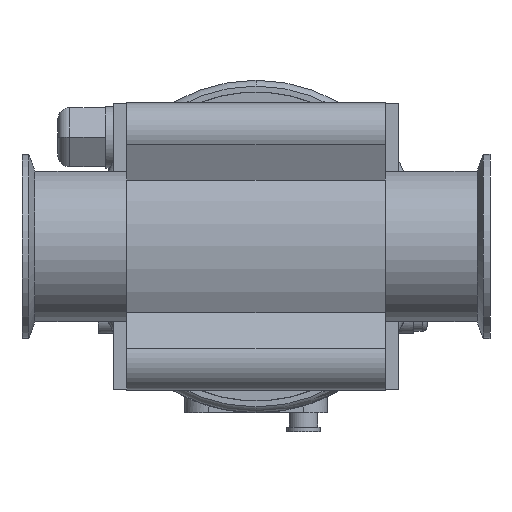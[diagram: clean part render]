
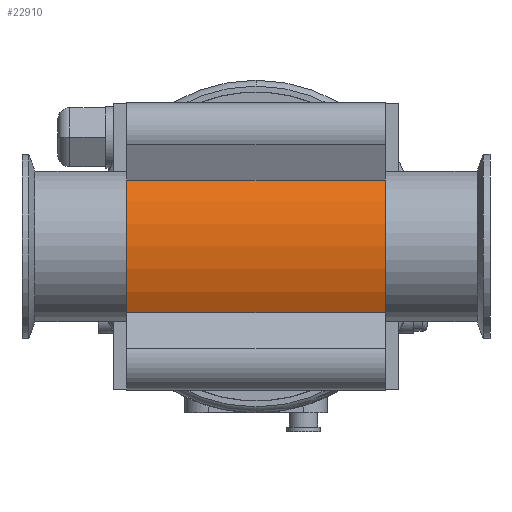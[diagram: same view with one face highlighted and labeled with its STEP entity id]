
A CAD part, front view. The second image highlights one B-rep face of the part: STEP entity #22910.
In plain terms, the highlighted cylindrical face has radius 59.5 mm (diameter 119 mm), a partial arc.
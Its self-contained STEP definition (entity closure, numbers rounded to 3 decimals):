
#17790=CARTESIAN_POINT('',(-52.5,-113.3,0.));
#17800=DIRECTION('',(-1.,0.,0.));
#17810=DIRECTION('',(0.,-0.707,
0.707));
#17820=AXIS2_PLACEMENT_3D('',#17790,#17800,#17810);
#17830=CYLINDRICAL_SURFACE('',#17820,59.5);
#17840=CARTESIAN_POINT('',(44.5,-113.3,0.));
#17850=DIRECTION('',(1.,0.,0.));
#17860=DIRECTION('',(0.,-0.707,
-0.707));
#17870=AXIS2_PLACEMENT_3D('',#17840,#17850,#17860);
#17880=CIRCLE('',#17870,59.5);
#19430=CARTESIAN_POINT('',(44.5,-165.806,
-27.989));
#19440=VERTEX_POINT('',#19430);
#19470=CARTESIAN_POINT('',(44.5,-165.806,
27.989));
#19480=VERTEX_POINT('',#19470);
#19490=EDGE_CURVE('',#19480,#19440,#17880,.T.);
#22650=ORIENTED_EDGE('',*,*,#19490,.F.);
#22660=CARTESIAN_POINT('',(-52.5,-165.806,
-27.989));
#22670=DIRECTION('',(-1.,0.,0.));
#22680=VECTOR('',#22670,1.);
#22690=LINE('',#22660,#22680);
#22700=CARTESIAN_POINT('',(-64.5,-165.806,
-27.989));
#22710=VERTEX_POINT('',#22700);
#22720=EDGE_CURVE('',#19440,#22710,#22690,.T.);
#22730=ORIENTED_EDGE('',*,*,#22720,.F.);
#22740=CARTESIAN_POINT('',(-64.5,-113.3,0.));
#22750=DIRECTION('',(-1.,0.,0.));
#22760=DIRECTION('',(0.,-0.707,
0.707));
#22770=AXIS2_PLACEMENT_3D('',#22740,#22750,#22760);
#22780=CIRCLE('',#22770,59.5);
#22790=CARTESIAN_POINT('',(-64.5,-165.806,
27.989));
#22800=VERTEX_POINT('',#22790);
#22810=EDGE_CURVE('',#22710,#22800,#22780,.T.);
#22820=ORIENTED_EDGE('',*,*,#22810,.F.);
#22830=CARTESIAN_POINT('',(32.5,-165.806,
27.989));
#22840=DIRECTION('',(1.,0.,0.));
#22850=VECTOR('',#22840,1.);
#22860=LINE('',#22830,#22850);
#22870=EDGE_CURVE('',#22800,#19480,#22860,.T.);
#22880=ORIENTED_EDGE('',*,*,#22870,.F.);
#22890=EDGE_LOOP('',(#22880,#22820,#22730,#22650));
#22900=FACE_OUTER_BOUND('',#22890,.T.);
#22910=ADVANCED_FACE('',(#22900),#17830,.T.);
